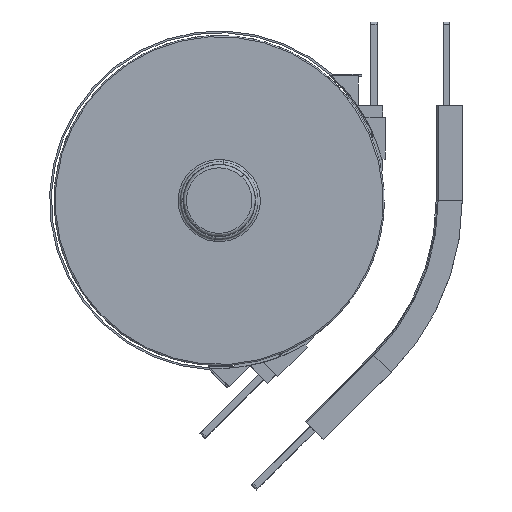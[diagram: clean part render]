
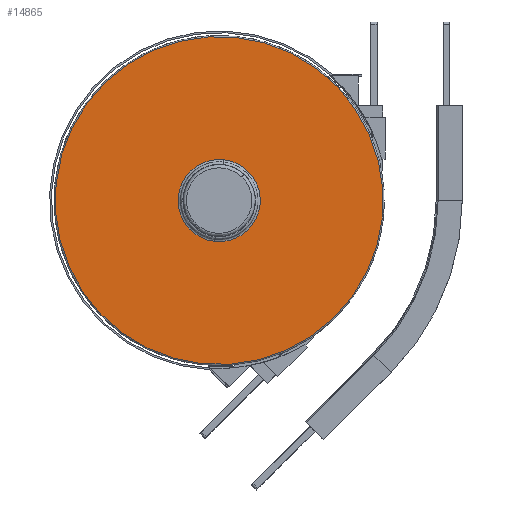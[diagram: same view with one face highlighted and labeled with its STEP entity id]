
A CAD part, front view. The second image highlights one B-rep face of the part: STEP entity #14865.
In plain terms, the highlighted planar face has unit normal (0, -1, 0) as drawn and (0, 0, 1) by its records, which use the part's own axes.
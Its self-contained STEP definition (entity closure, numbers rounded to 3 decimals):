
#96 = EDGE_CURVE ( 'NONE', #17738, #17647, #13080, .T. ) ;
#97 = EDGE_CURVE ( 'NONE', #17696, #17737, #13078, .T. ) ;
#5974 = AXIS2_PLACEMENT_3D ( 'NONE', #11439, #11437, #11442 ) ;
#7500 = CIRCLE ( 'NONE', #7548, 137.8 ) ;
#7548 = AXIS2_PLACEMENT_3D ( 'NONE', #15886, #15887, #15888 ) ;
#7553 = CIRCLE ( 'NONE', #7556, 34.5 ) ;
#7556 = AXIS2_PLACEMENT_3D ( 'NONE', #15898, #15899, #15900 ) ;
#11435 = FACE_OUTER_BOUND ( 'NONE', #24492, .T. ) ;
#11437 = DIRECTION ( 'NONE',  ( 0., 0., 1. ) ) ;
#11439 = CARTESIAN_POINT ( 'NONE',  ( 981.95, 0., 21.9 ) ) ;
#11440 = FACE_BOUND ( 'NONE', #24491, .T. ) ;
#11441 = PLANE ( 'NONE',  #5974 ) ;
#11442 = DIRECTION ( 'NONE',  ( 1., 0., 0. ) ) ;
#13073 = AXIS2_PLACEMENT_3D ( 'NONE', #18308, #18309, #18310 ) ;
#13075 = AXIS2_PLACEMENT_3D ( 'NONE', #18303, #18304, #18305 ) ;
#13078 = CIRCLE ( 'NONE', #13073, 137.8 ) ;
#13080 = CIRCLE ( 'NONE', #13075, 34.5 ) ;
#14865 = ADVANCED_FACE ( 'NONE', ( #11435, #11440 ), #11441, .T. ) ;
#15886 = CARTESIAN_POINT ( 'NONE',  ( 895.8, 0., 21.9 ) ) ;
#15887 = DIRECTION ( 'NONE',  ( 0., 0., 1. ) ) ;
#15888 = DIRECTION ( 'NONE',  ( 0., 1., 0. ) ) ;
#15898 = CARTESIAN_POINT ( 'NONE',  ( 895.8, 0., 21.9 ) ) ;
#15899 = DIRECTION ( 'NONE',  ( 0., 0., -1. ) ) ;
#15900 = DIRECTION ( 'NONE',  ( -1., 0., 0. ) ) ;
#17647 = VERTEX_POINT ( 'NONE', #21259 ) ;
#17696 = VERTEX_POINT ( 'NONE', #21306 ) ;
#17737 = VERTEX_POINT ( 'NONE', #21347 ) ;
#17738 = VERTEX_POINT ( 'NONE', #21348 ) ;
#18303 = CARTESIAN_POINT ( 'NONE',  ( 895.8, 0., 21.9 ) ) ;
#18304 = DIRECTION ( 'NONE',  ( 0., 0., -1. ) ) ;
#18305 = DIRECTION ( 'NONE',  ( -1., 0., 0. ) ) ;
#18308 = CARTESIAN_POINT ( 'NONE',  ( 895.8, 0., 21.9 ) ) ;
#18309 = DIRECTION ( 'NONE',  ( 0., 0., 1. ) ) ;
#18310 = DIRECTION ( 'NONE',  ( 0., 1., 0. ) ) ;
#21071 = ORIENTED_EDGE ( 'NONE', *, *, #97, .T. ) ;
#21075 = ORIENTED_EDGE ( 'NONE', *, *, #23694, .T. ) ;
#21080 = ORIENTED_EDGE ( 'NONE', *, *, #96, .T. ) ;
#21084 = ORIENTED_EDGE ( 'NONE', *, *, #23698, .T. ) ;
#21259 = CARTESIAN_POINT ( 'NONE',  ( 930.3, 0., 21.9 ) ) ;
#21306 = CARTESIAN_POINT ( 'NONE',  ( 895.8, 137.8, 21.9 ) ) ;
#21347 = CARTESIAN_POINT ( 'NONE',  ( 895.8, -137.8, 21.9 ) ) ;
#21348 = CARTESIAN_POINT ( 'NONE',  ( 861.3, 0., 21.9 ) ) ;
#23694 = EDGE_CURVE ( 'NONE', #17737, #17696, #7500, .T. ) ;
#23698 = EDGE_CURVE ( 'NONE', #17647, #17738, #7553, .T. ) ;
#24491 = EDGE_LOOP ( 'NONE', ( #21080, #21084 ) ) ;
#24492 = EDGE_LOOP ( 'NONE', ( #21071, #21075 ) ) ;
